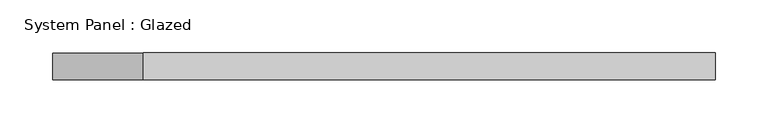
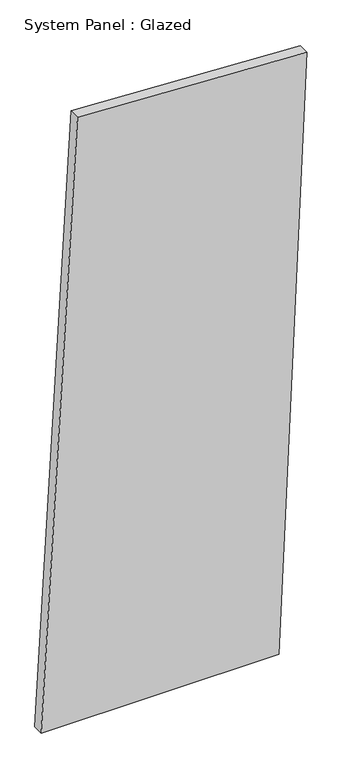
"""IFC4 building model written with IfcOpenShell, lengths in millimetres: plate geometry, System Panel : Glazed."""

from ifc_helpers import new_model, si_unit, frame, origin, place, context, project, spatial, polyline, outline, extrude, source, transform, mapped, element, save


def system_panel_glazed_be022af0(model_context):
    return source(origin(), model_context, "Body", "SweptSolid", [
        extrude(outline(polyline([(0.0, -313.3431286), (0.0, 247.5543331), (1476.8206921, 313.3431286), (1504.3122702, -227.6530218), (0.0, -313.3431286)])), frame((0.0, -44.45, 0.0), z_axis=(0.0, 1.0, 0.0), x_axis=(0.0, 0.0, 1.0)), (0.0, 0.0, 1.0), 25.4),
    ])


if __name__ == "__main__":
    model = new_model("IFC4")
    model_context = context("Model", 3, world=origin())
    ifc_project = project(units=[si_unit("LENGTHUNIT", "METRE", prefix="MILLI")], contexts=[model_context])
    site = spatial("IfcSite", under=ifc_project)
    building = spatial("IfcBuilding", under=site)
    placement = place(None, origin())
    system_panel_glazed_shape = system_panel_glazed_be022af0(model_context)
    element("IfcPlate", 1, ObjectType="System Panel : Glazed", at=placement, inside=building, context=model_context, shape_type="MappedRepresentation", body=[
        mapped(system_panel_glazed_shape, transform((0.0, 0.0, 0.0), x_axis=(1.0, 0.0, 0.0), y_axis=(0.0, 1.0, 0.0), z_axis=(0.0, 0.0, 1.0))),
    ])
    save(model, "model.ifc")
